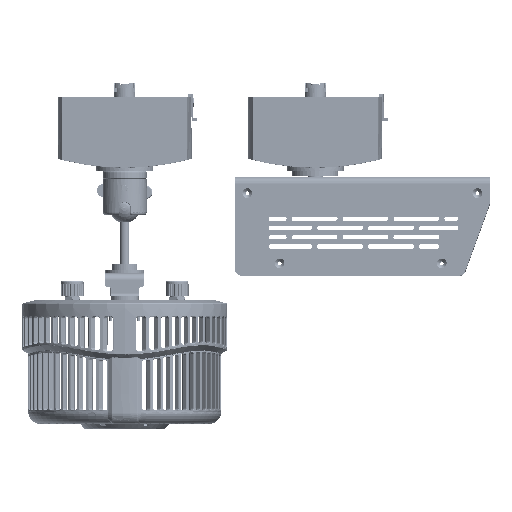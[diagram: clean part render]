
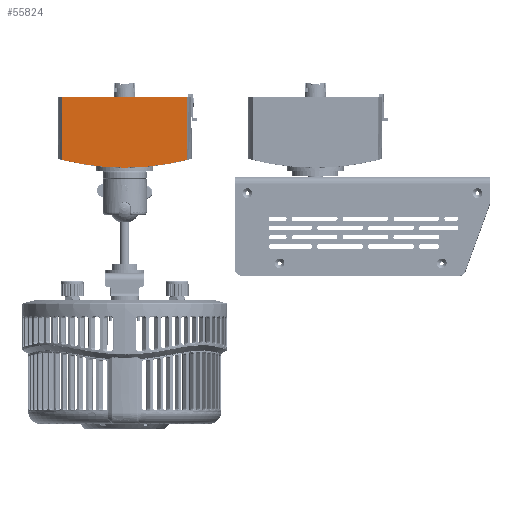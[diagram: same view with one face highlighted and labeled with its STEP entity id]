
A CAD part, top view. The second image highlights one B-rep face of the part: STEP entity #55824.
In plain terms, the highlighted planar face has unit normal (-0.003, 0, 1).
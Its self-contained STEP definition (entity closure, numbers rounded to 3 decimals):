
#3229 = CARTESIAN_POINT ( 'NONE',  ( -0.027, -25.498, 18.5 ) ) ;
#4696 = DIRECTION ( 'NONE',  ( 0., 1., 0. ) ) ;
#5698 = CARTESIAN_POINT ( 'NONE',  ( -1.92, -25.389, 18.5 ) ) ;
#7860 = ORIENTED_EDGE ( 'NONE', *, *, #199318, .T. ) ;
#11333 = DIRECTION ( 'NONE',  ( 1., 0., 0. ) ) ;
#15280 = CARTESIAN_POINT ( 'NONE',  ( 0., 141.025, 18.5 ) ) ;
#16160 = CARTESIAN_POINT ( 'NONE',  ( 1.92, -25.389, 18.5 ) ) ;
#16569 = CIRCLE ( 'NONE', #135922, 166.425 ) ;
#22349 = CARTESIAN_POINT ( 'NONE',  ( 40.428, 20.5, 18.5 ) ) ;
#22501 = EDGE_CURVE ( 'NONE', #47773, #32151, #150295, .T. ) ;
#24405 = CARTESIAN_POINT ( 'NONE',  ( -0.492, -25.463, 18.5 ) ) ;
#26887 = CARTESIAN_POINT ( 'NONE',  ( -0.094, -25.493, 18.5 ) ) ;
#26941 = DIRECTION ( 'NONE',  ( 0., -1., 0. ) ) ;
#32151 = VERTEX_POINT ( 'NONE', #173070 ) ;
#34914 = CARTESIAN_POINT ( 'NONE',  ( 0., -25.5, 18.5 ) ) ;
#39724 = CARTESIAN_POINT ( 'NONE',  ( 40.428, 141.025, 18.5 ) ) ;
#39785 = VERTEX_POINT ( 'NONE', #168411 ) ;
#42300 = B_SPLINE_CURVE_WITH_KNOTS ( 'NONE', 3,
 ( #34914, #227782, #110905, #172926, #186695, #16160 ),
 .UNSPECIFIED., .F., .F.,
 ( 4, 2, 4 ),
 ( 0., 0.001, 0.002 ),
 .UNSPECIFIED. ) ;
#47773 = VERTEX_POINT ( 'NONE', #66588 ) ;
#53022 = B_SPLINE_CURVE_WITH_KNOTS ( 'NONE', 3,
 ( #5698, #120262, #117849, #84137, #214880, #193670, #80480, #177429, #24405, #197384, #212407, #26887, #3229, #140126, #100369, #116641 ),
 .UNSPECIFIED., .F., .F.,
 ( 4, 3, 3, 3, 3, 4 ),
 ( 0., 0., 0.001, 0.002, 0.002, 0.002 ),
 .UNSPECIFIED. ) ;
#54004 = ORIENTED_EDGE ( 'NONE', *, *, #107024, .T. ) ;
#55824 = ADVANCED_FACE ( 'NONE', ( #185826 ), #144817, .T. ) ;
#61838 = CARTESIAN_POINT ( 'NONE',  ( -40.428, -20.5, 18.5 ) ) ;
#62493 = EDGE_LOOP ( 'NONE', ( #54004, #168301, #226155, #123076, #7860, #167047, #230746 ) ) ;
#66588 = CARTESIAN_POINT ( 'NONE',  ( 1.92, -25.389, 18.5 ) ) ;
#67081 = CARTESIAN_POINT ( 'NONE',  ( -40.428, -20.415, 18.5 ) ) ;
#68466 = CARTESIAN_POINT ( 'NONE',  ( 0., -25.5, 18.5 ) ) ;
#80480 = CARTESIAN_POINT ( 'NONE',  ( -1.025, -25.427, 18.5 ) ) ;
#84137 = CARTESIAN_POINT ( 'NONE',  ( -1.584, -25.398, 18.5 ) ) ;
#93997 = VECTOR ( 'NONE', #26941, 1000. ) ;
#98016 = LINE ( 'NONE', #61838, #93997 ) ;
#100369 = CARTESIAN_POINT ( 'NONE',  ( -0.009, -25.499, 18.5 ) ) ;
#107024 = EDGE_CURVE ( 'NONE', #237383, #39785, #110899, .T. ) ;
#110899 = LINE ( 'NONE', #186686, #140811 ) ;
#110905 = CARTESIAN_POINT ( 'NONE',  ( 0.639, -25.452, 18.5 ) ) ;
#116641 = CARTESIAN_POINT ( 'NONE',  ( 0., -25.5, 18.5 ) ) ;
#117849 = CARTESIAN_POINT ( 'NONE',  ( -1.696, -25.393, 18.5 ) ) ;
#118106 = LINE ( 'NONE', #39724, #192594 ) ;
#120262 = CARTESIAN_POINT ( 'NONE',  ( -1.808, -25.39, 18.5 ) ) ;
#123076 = ORIENTED_EDGE ( 'NONE', *, *, #244792, .T. ) ;
#127185 = VERTEX_POINT ( 'NONE', #216573 ) ;
#130657 = DIRECTION ( 'NONE',  ( 1., 0., 0. ) ) ;
#132339 = AXIS2_PLACEMENT_3D ( 'NONE', #15280, #164696, #163465 ) ;
#135922 = AXIS2_PLACEMENT_3D ( 'NONE', #200558, #181868, #11333 ) ;
#140126 = CARTESIAN_POINT ( 'NONE',  ( -0.018, -25.499, 18.5 ) ) ;
#140811 = VECTOR ( 'NONE', #226562, 1000. ) ;
#144817 = PLANE ( 'NONE',  #132339 ) ;
#150295 = CIRCLE ( 'NONE', #174212, 166.425 ) ;
#159198 = EDGE_CURVE ( 'NONE', #224054, #127185, #16569, .T. ) ;
#163465 = DIRECTION ( 'NONE',  ( 1., 0., 0. ) ) ;
#164413 = EDGE_CURVE ( 'NONE', #32151, #237383, #118106, .T. ) ;
#164696 = DIRECTION ( 'NONE',  ( 0., 0., 1. ) ) ;
#167047 = ORIENTED_EDGE ( 'NONE', *, *, #22501, .T. ) ;
#168301 = ORIENTED_EDGE ( 'NONE', *, *, #223313, .T. ) ;
#168411 = CARTESIAN_POINT ( 'NONE',  ( -40.428, 20.5, 18.5 ) ) ;
#172926 = CARTESIAN_POINT ( 'NONE',  ( 1.279, -25.41, 18.5 ) ) ;
#173070 = CARTESIAN_POINT ( 'NONE',  ( 40.428, -20.415, 18.5 ) ) ;
#174212 = AXIS2_PLACEMENT_3D ( 'NONE', #205305, #206533, #130657 ) ;
#177429 = CARTESIAN_POINT ( 'NONE',  ( -0.758, -25.444, 18.5 ) ) ;
#181868 = DIRECTION ( 'NONE',  ( 0., 0., 1. ) ) ;
#182166 = VERTEX_POINT ( 'NONE', #68466 ) ;
#185826 = FACE_OUTER_BOUND ( 'NONE', #62493, .T. ) ;
#186686 = CARTESIAN_POINT ( 'NONE',  ( -40.5, 20.5, 18.5 ) ) ;
#186695 = CARTESIAN_POINT ( 'NONE',  ( 1.599, -25.393, 18.5 ) ) ;
#192594 = VECTOR ( 'NONE', #4696, 1000. ) ;
#193670 = CARTESIAN_POINT ( 'NONE',  ( -1.211, -25.415, 18.5 ) ) ;
#197384 = CARTESIAN_POINT ( 'NONE',  ( -0.227, -25.483, 18.5 ) ) ;
#199318 = EDGE_CURVE ( 'NONE', #182166, #47773, #42300, .T. ) ;
#200558 = CARTESIAN_POINT ( 'NONE',  ( 0., 141.025, 18.5 ) ) ;
#205305 = CARTESIAN_POINT ( 'NONE',  ( 0., 141.025, 18.5 ) ) ;
#206533 = DIRECTION ( 'NONE',  ( 0., 0., 1. ) ) ;
#212407 = CARTESIAN_POINT ( 'NONE',  ( -0.16, -25.488, 18.5 ) ) ;
#214880 = CARTESIAN_POINT ( 'NONE',  ( -1.397, -25.405, 18.5 ) ) ;
#216573 = CARTESIAN_POINT ( 'NONE',  ( -1.92, -25.389, 18.5 ) ) ;
#223313 = EDGE_CURVE ( 'NONE', #39785, #224054, #98016, .T. ) ;
#224054 = VERTEX_POINT ( 'NONE', #67081 ) ;
#226155 = ORIENTED_EDGE ( 'NONE', *, *, #159198, .T. ) ;
#226562 = DIRECTION ( 'NONE',  ( -1., 0., 0. ) ) ;
#227782 = CARTESIAN_POINT ( 'NONE',  ( 0.32, -25.476, 18.5 ) ) ;
#230746 = ORIENTED_EDGE ( 'NONE', *, *, #164413, .T. ) ;
#237383 = VERTEX_POINT ( 'NONE', #22349 ) ;
#244792 = EDGE_CURVE ( 'NONE', #127185, #182166, #53022, .T. ) ;
